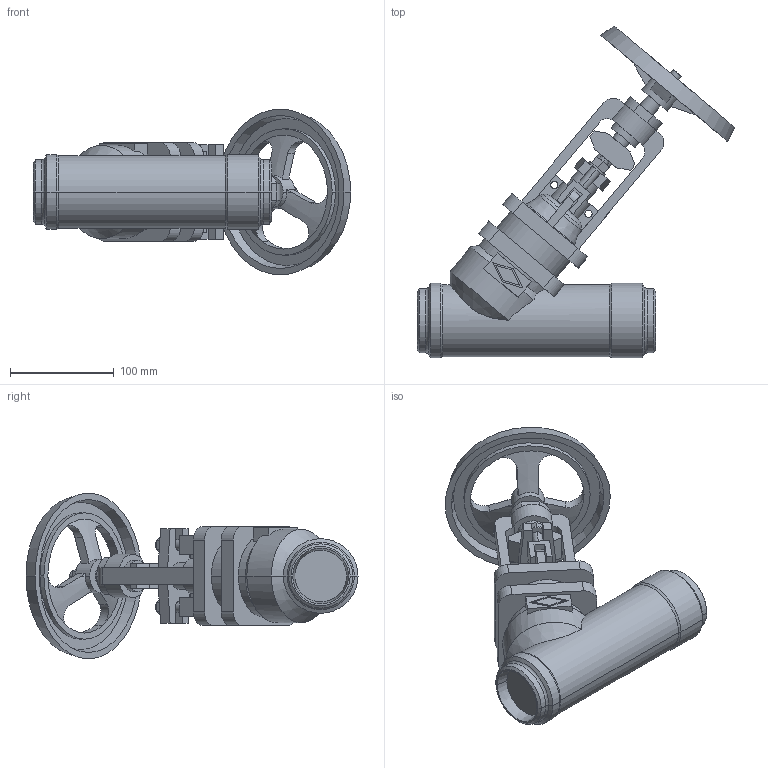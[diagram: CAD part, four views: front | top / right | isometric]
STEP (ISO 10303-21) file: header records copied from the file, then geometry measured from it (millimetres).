
FILE_DESCRIPTION(('OneSpaceDesigner STEP Export'),'2;1');
FILE_NAME('c000004362.stp','2010-05-11T 8:13:46',(''),(''),'OneSpace Designer STEP processor for AP214 (Solid Model)','OneSpace Modeling 15.50B 03-Nov-2007 (C) CoCreate Software GmbH','');
FILE_SCHEMA(('AUTOMOTIVE_DESIGN { 1 0 10303 214 1 1 1 1 }'));
Length unit declared in the file: millimetre
Products named in the file (1): 1
Bounding box: 306.3 x 320.32 x 160 mm (x, y, z)
Volume: 1761473.8 mm3; surface area: 198007.5 mm2
Topology: 1 solids, 1 shells, 292 faces, 758 edges, 490 vertices
Faces by surface type: plane 144, cylinder 85, cone 43, torus 20
Entity records: 11236 total; most frequent: CARTESIAN_POINT 2175, ORIENTED_EDGE 1516, DIRECTION 1237, EDGE_CURVE 758, VERTEX_POINT 490, VECTOR 421, LINE 421, AXIS2_PLACEMENT_3D 408
